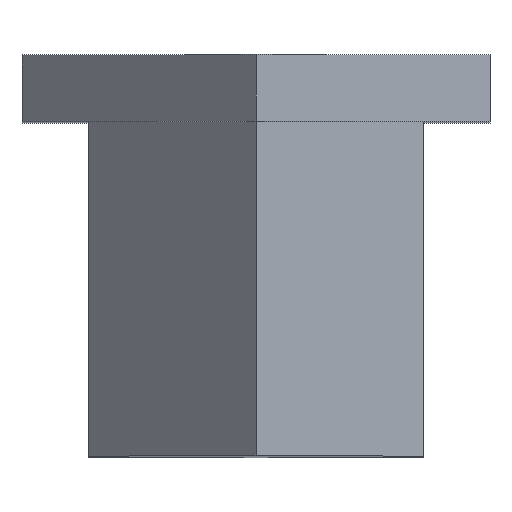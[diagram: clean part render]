
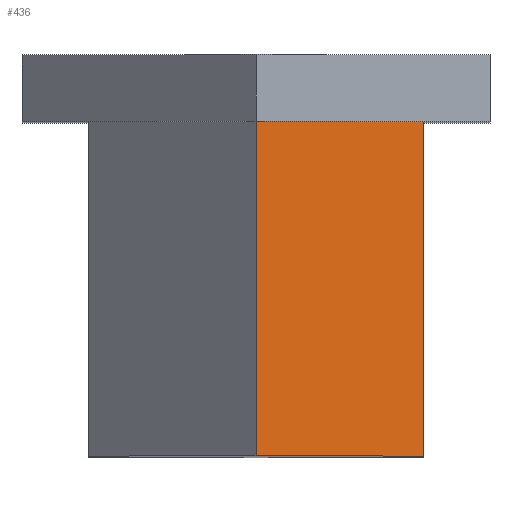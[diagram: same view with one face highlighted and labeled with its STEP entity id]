
A CAD part, top view. The second image highlights one B-rep face of the part: STEP entity #436.
In plain terms, the highlighted planar face has unit normal (0.707, 0, 0.707).
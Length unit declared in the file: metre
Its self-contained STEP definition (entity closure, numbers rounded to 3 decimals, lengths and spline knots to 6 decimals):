
#34=ORIENTED_EDGE('',*,*,#153,.F.);
#35=ORIENTED_EDGE('',*,*,#154,.T.);
#36=ORIENTED_EDGE('',*,*,#155,.T.);
#37=ORIENTED_EDGE('',*,*,#151,.F.);
#151=EDGE_CURVE('',#210,#211,#251,.T.);
#153=EDGE_CURVE('',#212,#210,#253,.T.);
#154=EDGE_CURVE('',#212,#213,#254,.T.);
#155=EDGE_CURVE('',#213,#211,#255,.T.);
#210=VERTEX_POINT('',#649);
#211=VERTEX_POINT('',#651);
#212=VERTEX_POINT('',#655);
#213=VERTEX_POINT('',#657);
#251=LINE('',#650,#311);
#253=LINE('',#654,#313);
#254=LINE('',#656,#314);
#255=LINE('',#658,#315);
#311=VECTOR('',#523,1.);
#313=VECTOR('',#527,1.);
#314=VECTOR('',#528,1.);
#315=VECTOR('',#529,1.);
#357=EDGE_LOOP('',(#34,#35,#36,#37));
#385=FACE_BOUND('',#357,.T.);
#411=PLANE('',#474);
#436=ADVANCED_FACE('',(#385),#411,.F.);
#474=AXIS2_PLACEMENT_3D('',#653,#525,#526);
#523=DIRECTION('',(0.,-1.,0.));
#525=DIRECTION('',(-0.707,0.,-0.707));
#526=DIRECTION('',(-0.707,0.,0.707));
#527=DIRECTION('',(0.707,0.,-0.707));
#528=DIRECTION('',(0.,-1.,0.));
#529=DIRECTION('',(0.707,0.,-0.707));
#649=CARTESIAN_POINT('',(-0.015,-0.032,-0.005));
#650=CARTESIAN_POINT('',(-0.015,-0.03,-0.005));
#651=CARTESIAN_POINT('',(-0.015,-0.042,-0.005));
#653=CARTESIAN_POINT('',(-0.0175,-0.03,-0.0025));
#654=CARTESIAN_POINT('',(-0.0175,-0.032,-0.0025));
#655=CARTESIAN_POINT('',(-0.02,-0.032,0.));
#656=CARTESIAN_POINT('',(-0.02,-0.03,0.));
#657=CARTESIAN_POINT('',(-0.02,-0.042,0.));
#658=CARTESIAN_POINT('',(-0.0175,-0.042,-0.0025));
